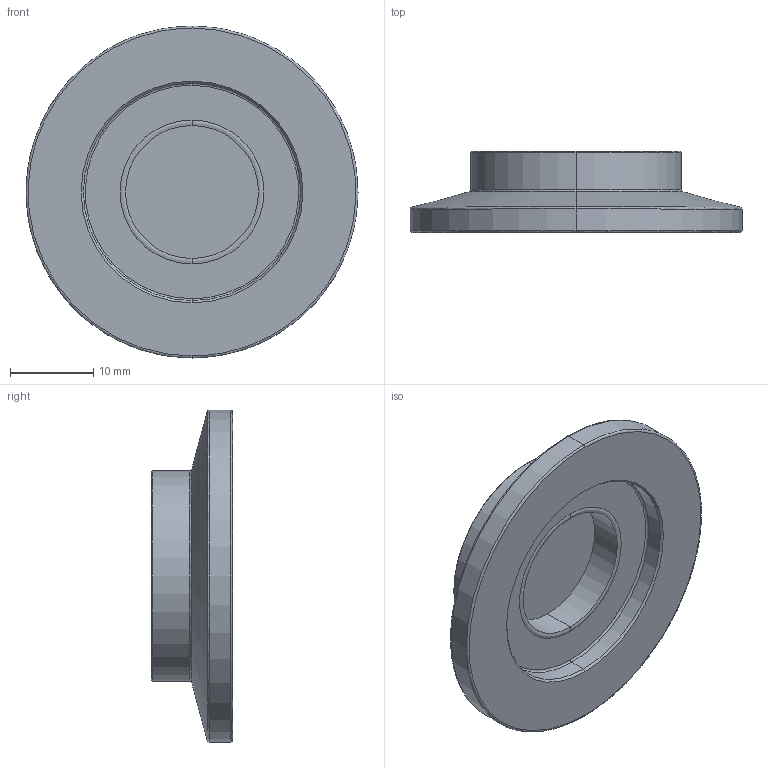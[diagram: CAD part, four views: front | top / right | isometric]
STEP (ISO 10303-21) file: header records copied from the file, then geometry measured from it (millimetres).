
FILE_DESCRIPTION (( 'STEP AP203' ), '1' );
FILE_NAME ('112662.stp', '2022-04-27T21:33:54', ( '' ), ( '' ), 'SwSTEP 2.0', 'SolidWorks 2012', '' );
FILE_SCHEMA (( 'CONFIG_CONTROL_DESIGN' ));
Length unit declared in the file: inch
Products named in the file (1): 112662
Bounding box: 40 x 9.78 x 40 mm (x, y, z)
Volume: 5232.2 mm3; surface area: 4271.4 mm2
Topology: 1 solids, 1 shells, 43 faces, 84 edges, 48 vertices
Faces by surface type: cylinder 14, bspline 12, cone 10, plane 7
Entity records: 1311 total; most frequent: CARTESIAN_POINT 374, DIRECTION 196, ORIENTED_EDGE 168, AXIS2_PLACEMENT_3D 86, EDGE_CURVE 84, CIRCLE 54, EDGE_LOOP 48, VERTEX_POINT 48
